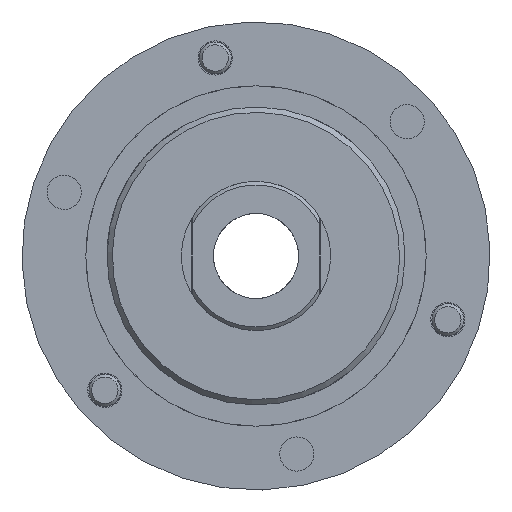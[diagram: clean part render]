
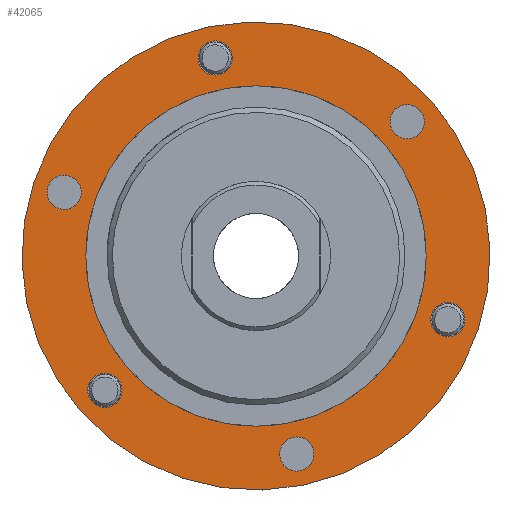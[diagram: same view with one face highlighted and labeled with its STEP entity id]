
A CAD part, front view. The second image highlights one B-rep face of the part: STEP entity #42065.
In plain terms, the highlighted planar face has unit normal (0, -1, 0).
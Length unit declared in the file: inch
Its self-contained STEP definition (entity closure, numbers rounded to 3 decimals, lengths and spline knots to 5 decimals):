
#41837=CARTESIAN_POINT('',(-0.92791,-0.01,-0.59375));
#41838=VERTEX_POINT('',#41837);
#41839=CARTESIAN_POINT('',(-1.02841,-0.01,-0.59375));
#41840=DIRECTION('',(0.0,1.0,0.0));
#41841=DIRECTION('',(-1.0,0.0,0.0));
#41842=AXIS2_PLACEMENT_3D('',#41839,#41840,#41841);
#41843=CIRCLE('',#41842,0.1005);
#41844=EDGE_CURVE('',#41838,#41838,#41843,.T.);
#41865=CARTESIAN_POINT('',(1.12891,-0.01,-0.59375));
#41866=VERTEX_POINT('',#41865);
#41867=CARTESIAN_POINT('',(1.02841,-0.01,-0.59375));
#41868=DIRECTION('',(0.0,1.0,0.0));
#41869=DIRECTION('',(-1.0,0.0,0.0));
#41870=AXIS2_PLACEMENT_3D('',#41867,#41868,#41869);
#41871=CIRCLE('',#41870,0.1005);
#41872=EDGE_CURVE('',#41866,#41866,#41871,.T.);
#41893=CARTESIAN_POINT('',(0.1005,-0.01,1.1875));
#41894=VERTEX_POINT('',#41893);
#41895=CARTESIAN_POINT('',(0.,-0.01,1.1875));
#41896=DIRECTION('',(0.0,1.0,0.0));
#41897=DIRECTION('',(-1.0,0.0,0.0));
#41898=AXIS2_PLACEMENT_3D('',#41895,#41896,#41897);
#41899=CIRCLE('',#41898,0.1005);
#41900=EDGE_CURVE('',#41894,#41894,#41899,.T.);
#41921=CARTESIAN_POINT('',(-0.92791,-0.01,0.59375));
#41922=VERTEX_POINT('',#41921);
#41923=CARTESIAN_POINT('',(-1.02841,-0.01,0.59375));
#41924=DIRECTION('',(0.0,1.0,0.0));
#41925=DIRECTION('',(-1.0,0.0,0.0));
#41926=AXIS2_PLACEMENT_3D('',#41923,#41924,#41925);
#41927=CIRCLE('',#41926,0.1005);
#41928=EDGE_CURVE('',#41922,#41922,#41927,.T.);
#41949=CARTESIAN_POINT('',(1.12891,-0.01,0.59375));
#41950=VERTEX_POINT('',#41949);
#41951=CARTESIAN_POINT('',(1.02841,-0.01,0.59375));
#41952=DIRECTION('',(0.0,1.0,0.0));
#41953=DIRECTION('',(-1.0,0.0,0.0));
#41954=AXIS2_PLACEMENT_3D('',#41951,#41952,#41953);
#41955=CIRCLE('',#41954,0.1005);
#41956=EDGE_CURVE('',#41950,#41950,#41955,.T.);
#41977=CARTESIAN_POINT('',(0.1005,-0.01,-1.1875));
#41978=VERTEX_POINT('',#41977);
#41979=CARTESIAN_POINT('',(0.,-0.01,-1.1875));
#41980=DIRECTION('',(0.0,1.0,0.0));
#41981=DIRECTION('',(-1.0,0.0,0.0));
#41982=AXIS2_PLACEMENT_3D('',#41979,#41980,#41981);
#41983=CIRCLE('',#41982,0.1005);
#41984=EDGE_CURVE('',#41978,#41978,#41983,.T.);
#42005=CARTESIAN_POINT('',(1.375,-0.01,0.0));
#42006=VERTEX_POINT('',#42005);
#42007=CARTESIAN_POINT('',(0.,-0.01,0.0));
#42008=DIRECTION('',(0.0,-1.0,0.0));
#42009=DIRECTION('',(1.0,0.0,0.0));
#42010=AXIS2_PLACEMENT_3D('',#42007,#42008,#42009);
#42011=CIRCLE('',#42010,1.375);
#42012=EDGE_CURVE('',#42006,#42006,#42011,.T.);
#42028=CARTESIAN_POINT('',(0.92575,-0.01,0.0));
#42029=DIRECTION('',(0.0,-1.0,0.0));
#42030=DIRECTION('',(0.0,0.0,-1.0));
#42031=AXIS2_PLACEMENT_3D('',#42028,#42029,#42030);
#42032=PLANE('',#42031);
#42033=ORIENTED_EDGE('',*,*,#42012,.T.);
#42034=EDGE_LOOP('',(#42033));
#42035=FACE_OUTER_BOUND('',#42034,.T.);
#42036=ORIENTED_EDGE('',*,*,#41844,.T.);
#42037=EDGE_LOOP('',(#42036));
#42038=FACE_BOUND('',#42037,.T.);
#42039=ORIENTED_EDGE('',*,*,#41872,.T.);
#42040=EDGE_LOOP('',(#42039));
#42041=FACE_BOUND('',#42040,.T.);
#42042=ORIENTED_EDGE('',*,*,#41900,.T.);
#42043=EDGE_LOOP('',(#42042));
#42044=FACE_BOUND('',#42043,.T.);
#42045=ORIENTED_EDGE('',*,*,#41928,.T.);
#42046=EDGE_LOOP('',(#42045));
#42047=FACE_BOUND('',#42046,.T.);
#42048=ORIENTED_EDGE('',*,*,#41956,.T.);
#42049=EDGE_LOOP('',(#42048));
#42050=FACE_BOUND('',#42049,.T.);
#42051=ORIENTED_EDGE('',*,*,#41984,.T.);
#42052=EDGE_LOOP('',(#42051));
#42053=FACE_BOUND('',#42052,.T.);
#42054=CARTESIAN_POINT('',(0.4765,-0.01,0.0));
#42055=VERTEX_POINT('',#42054);
#42056=CARTESIAN_POINT('',(0.,-0.01,0.0));
#42057=DIRECTION('',(0.0,-1.0,0.0));
#42058=DIRECTION('',(1.0,0.0,0.0));
#42059=AXIS2_PLACEMENT_3D('',#42056,#42057,#42058);
#42060=CIRCLE('',#42059,0.4765);
#42061=EDGE_CURVE('',#42055,#42055,#42060,.T.);
#42062=ORIENTED_EDGE('',*,*,#42061,.F.);
#42063=EDGE_LOOP('',(#42062));
#42064=FACE_BOUND('',#42063,.T.);
#42065=ADVANCED_FACE('',(#42035,#42038,#42041,#42044,#42047,#42050,#42053,#42064),#42032,.T.);
